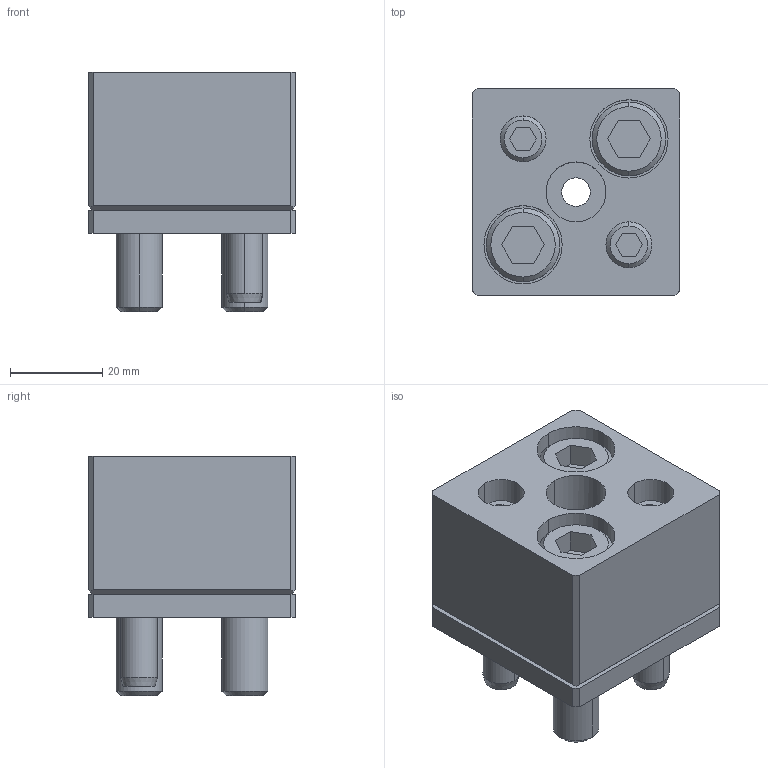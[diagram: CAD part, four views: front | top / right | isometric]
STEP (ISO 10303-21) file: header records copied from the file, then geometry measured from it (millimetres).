
FILE_DESCRIPTION(/* description */ (''),/* implementation_level */ '2;1');
FILE_NAME(/* name */ '3d_sr-fp13_05491_r00.stp',/* time_stamp */ '2011-01-10T14:09:58+09:00',/* author */ ('MISUMI'),/* organization */ (''),/* preprocessor_version */ 'ST-DEVELOPER v11',/* originating_system */ 'UGS - NX 5.0',/* authorisation */ '');
FILE_SCHEMA (('CONFIG_CONTROL_DESIGN'));
Length unit declared in the file: millimetre
Products named in the file (1): 3d_sr-fp13_05491_r00
Bounding box: 45 x 45 x 52 mm (x, y, z)
Volume: 65117.2 mm3; surface area: 26321.1 mm2
Topology: 8 solids, 8 shells, 159 faces, 364 edges, 235 vertices
Faces by surface type: plane 78, cylinder 55, cone 26
Entity records: 4636 total; most frequent: DIRECTION 814, CARTESIAN_POINT 806, ORIENTED_EDGE 728, EDGE_CURVE 364, AXIS2_PLACEMENT_3D 297, VERTEX_POINT 235, LINE 220, VECTOR 220
